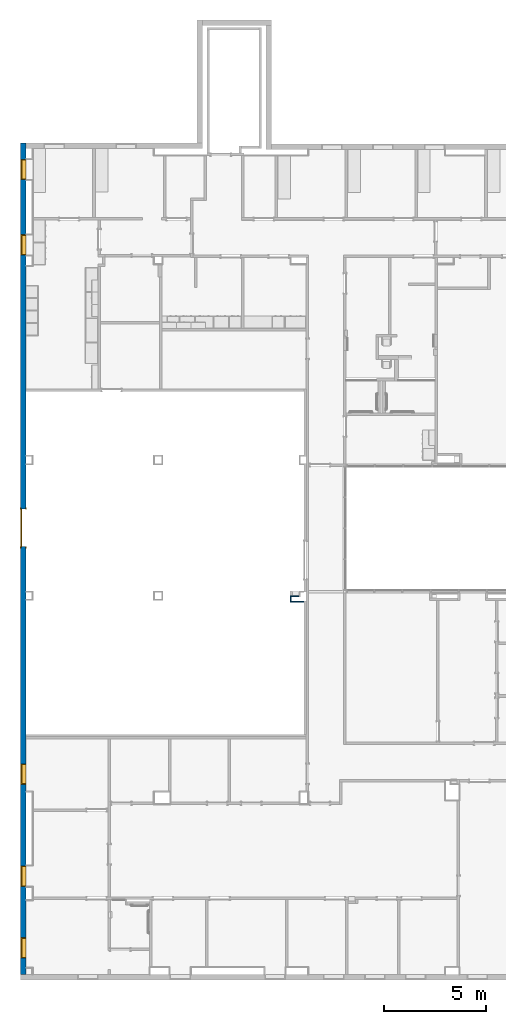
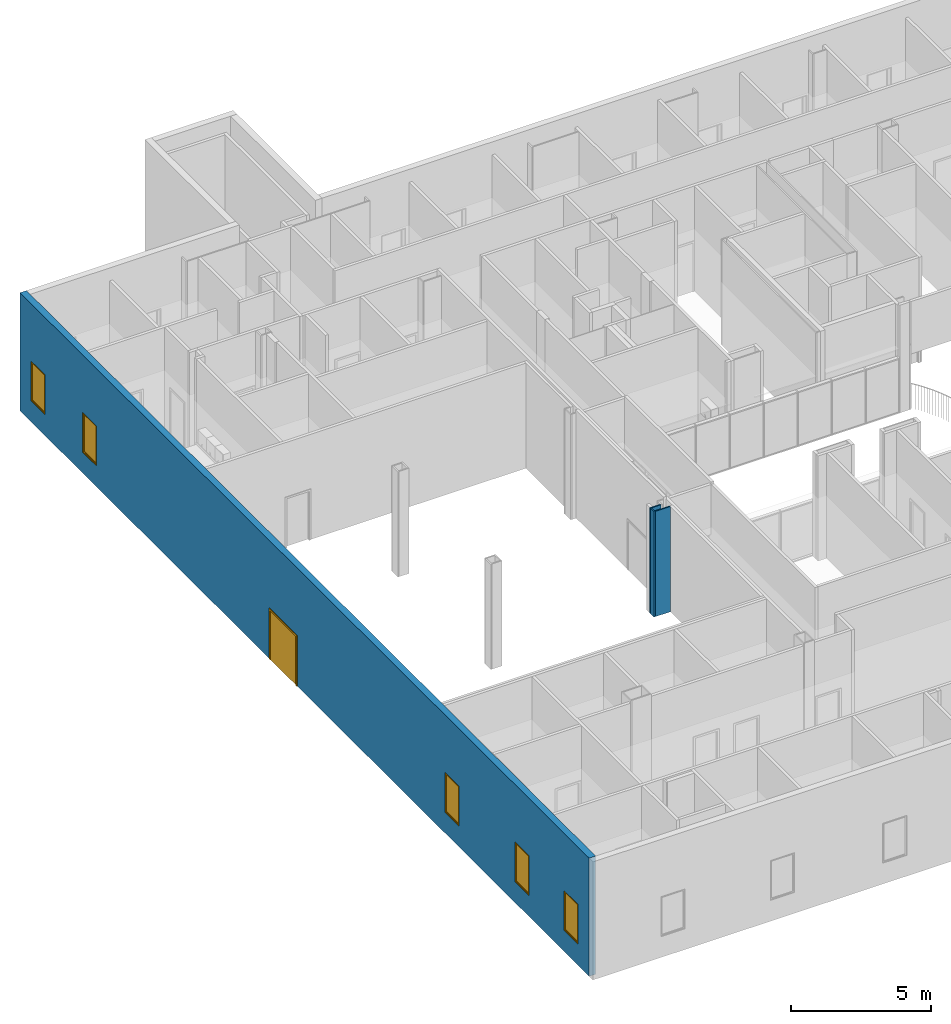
# One storey, part 11 of 45: 5 windows, 4 walls, 1 door, 6 openings.
"""IFC2X3 building model written with IfcOpenShell, lengths in metres."""

from ifc_helpers import new_model, entity, si_unit, converted_unit, frame, frame_2d, origin, origin_2d_with_axis, place, context, project, spatial, polyline, rectangle, outline, extrude, source, transform, mapped, material, layer, layer_set, layer_usage, type_object, type_shapes, element, fill, save


model = new_model("IFC2X3")

# Units and contexts
model_context = context("Model", 3, precision=1e-09, world=origin())
plan_context = context("Plan", 3, precision=1e-09, world=origin())
ifc_project = project(units=[si_unit("LENGTHUNIT", "METRE"), si_unit("AREAUNIT", "SQUARE_METRE"), si_unit("VOLUMEUNIT", "CUBIC_METRE"), converted_unit("PLANEANGLEUNIT", "DEGREE", entity("IfcRatioMeasure", 0.01745329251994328), si_unit("PLANEANGLEUNIT", "RADIAN"), dimensions=[0, 0, 0, 0, 0, 0, 0]), si_unit("TIMEUNIT", "SECOND")], contexts=[model_context, plan_context])

# Site, building, storey
site_placement = place(None, origin())
site = spatial("IfcSite", under=ifc_project, at=site_placement, Name="Default", CompositionType="ELEMENT")
building_placement = place(site_placement, origin())
building = spatial("IfcBuilding", under=site, at=building_placement, CompositionType="ELEMENT")
storey_placement = place(building_placement, frame((0.0, 0.0, 4.570000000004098)))
storey = spatial("IfcBuildingStorey", under=building, at=storey_placement, Name="Second Floor", CompositionType="ELEMENT", Elevation=4.570000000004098)

# Wall, openings, windows, door
ifc_material_1 = material(Name="Insulation - Insulated Panel")
ifc_layer_1 = layer(ifc_material_1, 0.042)
ifc_material_2 = material(Name="Metal - Firring")
ifc_layer_2 = layer(ifc_material_2, 0.038)
ifc_material_3 = material(Name="Wood - Sheathing - plywood")
ifc_layer_3 = layer(ifc_material_3, 0.019)
ifc_material_4 = material(Name="Metal - Stud Layer")
ifc_layer_4 = layer(ifc_material_4, 0.152)
ifc_material_5 = material(Name="Plasterboard")
ifc_layer_5 = layer(ifc_material_5, 0.016)
ifc_layer_set_1 = layer_set([ifc_layer_1, ifc_layer_2, ifc_layer_3, ifc_layer_4, ifc_layer_5], Name="Basic Wall:Exterior - Insul Panel on Mtl. Stud")
ifc_layer_usage_1 = layer_usage(ifc_layer_set_1, "AXIS2", "NEGATIVE", 0.1335)
wall_1_placement = place(storey_placement, frame((-47.24650000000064, 9.926999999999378, 0.0), z_axis=(0.0, 0.0, 1.0), x_axis=(0.0, 1.0, 0.0)))
wall_1 = element("IfcWallStandardCase", 1, at=wall_1_placement, inside=storey, material=ifc_layer_usage_1, Name="Basic Wall:Exterior - Insul Panel on Mtl. Stud", ObjectType="Basic Wall:Exterior - Insul Panel on Mtl. Stud", context=model_context, shape_type="SweptSolid", body=[
    extrude(rectangle(XDim=40.57743871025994, YDim=0.2670000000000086, at=frame_2d((20.28871935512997, 0.0), x_axis=(-1.0, 0.0))), origin(), (0.0, 0.0, 1.0), 5.136999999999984),
])
opening_1_placement = place(wall_1_placement, frame((9.287438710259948, -0.1335000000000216, 0.905)))
opening_1 = element("IfcOpeningElement", 2, at=opening_1_placement, cuts=wall_1, Name="M_Fixed:1735 x 1000mm:1735 x 1000mm:1", ObjectType="Opening", context=model_context, shape_type="SweptSolid", body=[
    extrude(rectangle(XDim=1.734999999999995, YDim=0.9999999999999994, at=frame_2d((0.8674999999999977, 0.5000000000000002), x_axis=(1.0, 0.0))), frame((0.0, 0.0, 0.0), z_axis=(0.0, 1.0, 0.0), x_axis=(0.0, 0.0, 1.0)), (0.0, 0.0, 1.0), 0.267),
])
opening_2_placement = place(wall_1_placement, frame((20.88743871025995, -0.1335000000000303, 0.0)))
opening_2 = element("IfcOpeningElement", 3, at=opening_2_placement, cuts=wall_1, Name="M_Double-Flush:1830 x 2134mm Exterior:1830 x 2134mm Exterior:1", ObjectType="Opening", context=model_context, shape_type="SweptSolid", body=[
    extrude(rectangle(XDim=2.133999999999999, YDim=1.829999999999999, at=frame_2d((1.067, 0.9149999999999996), x_axis=(1.0, 0.0))), frame((0.0, 0.0, 0.0), z_axis=(0.0, 1.0, 0.0), x_axis=(0.0, 0.0, 1.0)), (0.0, 0.0, 1.0), 0.267),
])
opening_3_placement = place(wall_1_placement, frame((4.300353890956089, -0.133500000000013, 0.905)))
opening_3 = element("IfcOpeningElement", 4, at=opening_3_placement, cuts=wall_1, Name="M_Fixed:1735 x 1000mm:1735 x 1000mm:1", ObjectType="Opening", context=model_context, shape_type="SweptSolid", body=[
    extrude(rectangle(XDim=1.734999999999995, YDim=0.9999999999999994, at=frame_2d((0.8674999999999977, 0.5000000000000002), x_axis=(1.0, 0.0))), frame((0.0, 0.0, 0.0), z_axis=(0.0, 1.0, 0.0), x_axis=(0.0, 0.0, 1.0)), (0.0, 0.0, 1.0), 0.267),
])
opening_4_placement = place(wall_1_placement, frame((35.11743913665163, -0.133500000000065, 0.905)))
opening_4 = element("IfcOpeningElement", 5, at=opening_4_placement, cuts=wall_1, Name="M_Fixed:1735 x 1000mm:1735 x 1000mm:1", ObjectType="Opening", context=model_context, shape_type="SweptSolid", body=[
    extrude(rectangle(XDim=1.734999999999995, YDim=0.9999999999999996, at=frame_2d((0.8674999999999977, 0.4999999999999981), x_axis=(1.0, 0.0))), frame((0.0, 0.0, 0.0), z_axis=(0.0, 1.0, 0.0), x_axis=(0.0, 0.0, 1.0)), (0.0, 0.0, 1.0), 0.267),
])
opening_5_placement = place(wall_1_placement, frame((0.8000000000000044, -0.1335000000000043, 0.905)))
opening_5 = element("IfcOpeningElement", 6, at=opening_5_placement, cuts=wall_1, Name="M_Fixed:1735 x 1000mm:1735 x 1000mm:1", ObjectType="Opening", context=model_context, shape_type="SweptSolid", body=[
    extrude(rectangle(XDim=1.734999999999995, YDim=0.9999999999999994, at=frame_2d((0.8674999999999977, 0.5000000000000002), x_axis=(1.0, 0.0))), frame((0.0, 0.0, 0.0), z_axis=(0.0, 1.0, 0.0), x_axis=(0.0, 0.0, 1.0)), (0.0, 0.0, 1.0), 0.267),
])
opening_6_placement = place(wall_1_placement, frame((38.79544628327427, -0.1335000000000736, 0.905)))
opening_6 = element("IfcOpeningElement", 7, at=opening_6_placement, cuts=wall_1, Name="M_Fixed:1735 x 1000mm:1735 x 1000mm:1", ObjectType="Opening", context=model_context, shape_type="SweptSolid", body=[
    extrude(rectangle(XDim=1.734999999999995, YDim=0.9999999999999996, at=frame_2d((0.8674999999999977, 0.4999999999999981), x_axis=(1.0, 0.0))), frame((0.0, 0.0, 0.0), z_axis=(0.0, 1.0, 0.0), x_axis=(0.0, 0.0, 1.0)), (0.0, 0.0, 1.0), 0.267),
])
window_style = type_object("IfcWindowStyle", Name="1735 x 1000mm", ConstructionType="NOTDEFINED", OperationType="NOTDEFINED", ParameterTakesPrecedence=False, Sizeable=False)
shared_shape_1 = source(origin(), model_context, "Body", "SweptSolid", [
    extrude(rectangle(XDim=0.012, YDim=0.873999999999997, at=origin_2d_with_axis()), frame((0.5000000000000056, 0.2259999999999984, 0.06299999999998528), z_axis=(0.0, 0.0, 1.0), x_axis=(0.0, -1.0, 0.0)), (0.0, 0.0, 1.0), 1.609000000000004),
    extrude(outline(polyline([(-0.4809999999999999, -0.8485000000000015), (0.4809999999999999, -0.8485000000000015), (0.4809999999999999, 0.8485000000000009), (-0.4809999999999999, 0.8485000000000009), (-0.4809999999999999, -0.8485000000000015)]), holes=[polyline([(-0.4369999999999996, -0.8045000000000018), (-0.4369999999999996, 0.8045000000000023), (0.4369999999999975, 0.8045000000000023), (0.4369999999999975, -0.8045000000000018), (-0.4369999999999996, -0.8045000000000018)])]), frame((0.5000000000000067, 0.203999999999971, 0.8674999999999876), z_axis=(0.0, 1.0, 0.0), x_axis=(1.0, 0.0, 0.0)), (0.0, 0.0, 1.0), 0.04400000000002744),
    extrude(outline(polyline([(-0.4999999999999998, -0.8674999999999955), (0.4999999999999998, -0.8674999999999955), (0.4999999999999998, 0.8674999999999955), (-0.4999999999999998, 0.8674999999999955), (-0.4999999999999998, -0.8674999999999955)]), holes=[polyline([(-0.4810000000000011, -0.8484999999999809), (-0.4810000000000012, 0.8485000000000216), (0.4809999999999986, 0.8485000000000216), (0.4809999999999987, -0.8484999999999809), (-0.4810000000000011, -0.8484999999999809)])]), frame((0.500000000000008, 0.203999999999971, 0.8675000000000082), z_axis=(0.0, 1.0, 0.0), x_axis=(1.0, 0.0, 0.0)), (0.0, 0.0, 1.0), 0.06300000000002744),
    extrude(outline(polyline([(-0.5000000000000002, -0.867499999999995), (0.5000000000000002, -0.867499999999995), (0.5000000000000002, 0.867499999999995), (-0.5000000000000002, 0.867499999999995), (-0.5000000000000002, -0.867499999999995)]), holes=[polyline([(-0.4679999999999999, -0.8354999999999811), (-0.4679999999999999, 0.8355000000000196), (0.4680000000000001, 0.8355000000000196), (0.4680000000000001, -0.8354999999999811), (-0.4679999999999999, -0.8354999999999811)])]), frame((0.5000000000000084, 0.0, 0.8675000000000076), z_axis=(0.0, 1.0, 0.0), x_axis=(1.0, 0.0, 0.0)), (0.0, 0.0, 1.0), 0.2039999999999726),
])
type_shapes(window_style, [shared_shape_1])
window_1_placement = place(opening_3_placement, origin())
window_1 = element("IfcWindow", 8, at=window_1_placement, inside=storey, type_object=window_style, Name="M_Fixed:1735 x 1000mm:1735 x 1000mm", ObjectType="1735 x 1000mm", OverallHeight=1.734999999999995, OverallWidth=1.0, context=model_context, shape_type="MappedRepresentation", body=[
    mapped(shared_shape_1, transform((0.0, 0.0, 0.0), scale=1.0)),
])
fill(opening_3, window_1)
window_2_placement = place(opening_6_placement, origin())
window_2 = element("IfcWindow", 9, at=window_2_placement, inside=storey, type_object=window_style, Name="M_Fixed:1735 x 1000mm:1735 x 1000mm", ObjectType="1735 x 1000mm", OverallHeight=1.734999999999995, OverallWidth=0.9999999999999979, context=model_context, shape_type="MappedRepresentation", body=[
    mapped(shared_shape_1, transform((0.0, 0.0, 0.0), scale=1.0)),
])
fill(opening_6, window_2)
window_3_placement = place(opening_5_placement, origin())
window_3 = element("IfcWindow", 10, at=window_3_placement, inside=storey, type_object=window_style, Name="M_Fixed:1735 x 1000mm:1735 x 1000mm", ObjectType="1735 x 1000mm", OverallHeight=1.734999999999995, OverallWidth=1.0, context=model_context, shape_type="MappedRepresentation", body=[
    mapped(shared_shape_1, transform((0.0, 0.0, 0.0), scale=1.0)),
])
fill(opening_5, window_3)
window_4_placement = place(opening_1_placement, origin())
window_4 = element("IfcWindow", 11, at=window_4_placement, inside=storey, type_object=window_style, Name="M_Fixed:1735 x 1000mm:1735 x 1000mm", ObjectType="1735 x 1000mm", OverallHeight=1.734999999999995, OverallWidth=1.0, context=model_context, shape_type="MappedRepresentation", body=[
    mapped(shared_shape_1, transform((0.0, 0.0, 0.0), scale=1.0)),
])
fill(opening_1, window_4)
window_5_placement = place(opening_4_placement, origin())
window_5 = element("IfcWindow", 12, at=window_5_placement, inside=storey, type_object=window_style, Name="M_Fixed:1735 x 1000mm:1735 x 1000mm", ObjectType="1735 x 1000mm", OverallHeight=1.734999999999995, OverallWidth=0.9999999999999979, context=model_context, shape_type="MappedRepresentation", body=[
    mapped(shared_shape_1, transform((0.0, 0.0, 0.0), scale=1.0)),
])
fill(opening_4, window_5)
door_style = type_object("IfcDoorStyle", Name="1830 x 2134mm Exterior", ConstructionType="NOTDEFINED", OperationType="DOUBLE_DOOR_SINGLE_SWING", ParameterTakesPrecedence=False, Sizeable=False)
shared_shape_2 = source(origin(), model_context, "Body", "SweptSolid", [
    extrude(rectangle(XDim=0.051, YDim=0.9150000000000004, at=origin_2d_with_axis()), frame((1.3725, 0.2414999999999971, 0.0), z_axis=(0.0, 0.0, 1.0), x_axis=(0.0, -1.0, 0.0)), (0.0, 0.0, 1.0), 2.133999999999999),
    extrude(rectangle(XDim=0.05099999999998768, YDim=0.9149999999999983, at=origin_2d_with_axis()), frame((0.457500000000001, 0.2415000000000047, 0.0), z_axis=(0.0, 0.0, 1.0), x_axis=(0.0, -1.0, 0.0)), (0.0, 0.0, 1.0), 2.134),
    extrude(outline(polyline([(-1.048, 0.9149999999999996), (1.086, 0.9149999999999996), (1.086, 0.9909999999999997), (-1.124, 0.9909999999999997), (-1.124, -0.9909999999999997), (1.086, -0.9909999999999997), (1.086, -0.9149999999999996), (-1.048, -0.9149999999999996), (-1.048, 0.9149999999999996)])), frame((0.9149999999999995, -0.02499999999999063, 1.086), z_axis=(0.0, 1.0, 0.0), x_axis=(0.0, 0.0, -1.0)), (0.0, 0.0, 1.0), 0.02499999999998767),
    extrude(outline(polyline([(-1.048, 0.9149999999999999), (1.086, 0.9149999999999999), (1.086, 0.991), (-1.124, 0.991), (-1.124, -0.991), (1.086, -0.991), (1.086, -0.9149999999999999), (-1.048, -0.9149999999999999), (-1.048, 0.9149999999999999)])), frame((0.9150000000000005, 0.266999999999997, 1.086), z_axis=(0.0, 1.0, 0.0), x_axis=(0.0, 0.0, -1.0)), (0.0, 0.0, 1.0), 0.02500000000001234),
])
type_shapes(door_style, [shared_shape_2])
door_placement = place(opening_2_placement, origin())
door = element("IfcDoor", 13, at=door_placement, inside=storey, type_object=door_style, Name="M_Double-Flush:1830 x 2134mm Exterior:1830 x 2134mm Exterior", ObjectType="1830 x 2134mm Exterior", OverallHeight=2.133999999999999, OverallWidth=1.83, context=model_context, shape_type="MappedRepresentation", body=[
    mapped(shared_shape_2, transform((0.0, 0.0, 0.0), scale=1.0)),
])
fill(opening_2, door)

# Walls
ifc_layer_6 = layer(ifc_material_4, 0.038)
ifc_layer_7 = layer(ifc_material_5, 0.016)
ifc_layer_set_2 = layer_set([ifc_layer_6, ifc_layer_7], Name="Basic Wall:Interior - Furring (38 mm Stud)")
ifc_layer_usage_2 = layer_usage(ifc_layer_set_2, "AXIS2", "NEGATIVE", 0.027)
wall_2_placement = place(storey_placement, frame((-34.16600000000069, 28.12643871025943, 0.0)))
element("IfcWallStandardCase", 14, at=wall_2_placement, inside=storey, material=ifc_layer_usage_2, Name="Basic Wall:Interior - Furring (38 mm Stud)", ObjectType="Basic Wall:Interior - Furring (38 mm Stud)", context=model_context, shape_type="SweptSolid", body=[
    extrude(rectangle(XDim=0.6160000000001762, YDim=0.05399999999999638, at=frame_2d((0.3080000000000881, 0.0), x_axis=(-1.0, 0.0))), origin(), (0.0, 0.0, 1.0), 4.577999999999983),
])
wall_3_placement = place(storey_placement, frame((-33.78000000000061, 28.38743871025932, 0.0), z_axis=(0.0, 0.0, 1.0), x_axis=(-1.0, 0.0, 0.0)))
element("IfcWallStandardCase", 15, at=wall_3_placement, inside=storey, material=ifc_layer_usage_2, Name="Basic Wall:Interior - Furring (38 mm Stud)", ObjectType="Basic Wall:Interior - Furring (38 mm Stud)", context=model_context, shape_type="SweptSolid", body=[
    extrude(rectangle(XDim=0.4400000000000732, YDim=0.05399999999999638, at=frame_2d((0.2200000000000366, 0.0), x_axis=(-1.0, 0.0))), origin(), (0.0, 0.0, 1.0), 4.577999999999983),
])
wall_4_placement = place(storey_placement, frame((-34.19300000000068, 28.36043871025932, 0.0), z_axis=(0.0, 0.0, 1.0), x_axis=(0.0, -1.0, 0.0)))
element("IfcWallStandardCase", 16, at=wall_4_placement, inside=storey, material=ifc_layer_usage_2, Name="Basic Wall:Interior - Furring (38 mm Stud)", ObjectType="Basic Wall:Interior - Furring (38 mm Stud)", context=model_context, shape_type="SweptSolid", body=[
    extrude(rectangle(XDim=0.2609999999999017, YDim=0.05399999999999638, at=frame_2d((0.1304999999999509, 0.0), x_axis=(-1.0, 0.0))), origin(), (0.0, 0.0, 1.0), 4.577999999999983),
])

save(model, "model.ifc")
